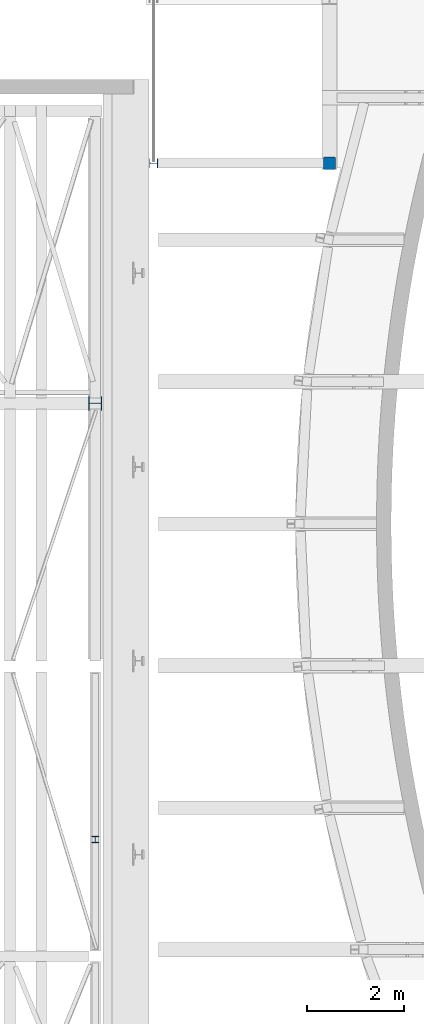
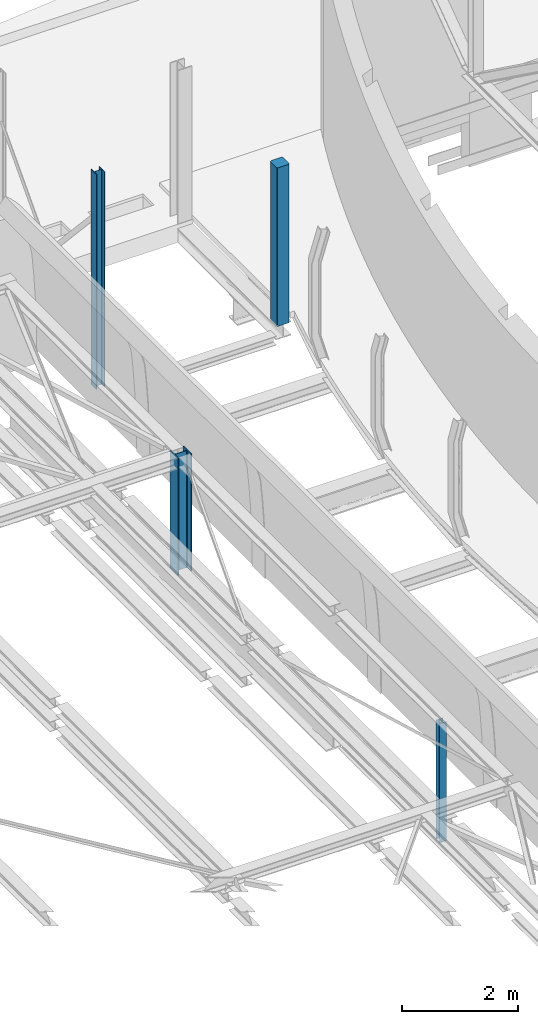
# One storey, part 2 of 38: 4 columns.
"""IFC2X3 building model written with IfcOpenShell, lengths in millimetres."""

from ifc_helpers import new_model, entity, si_unit, converted_unit, derived_unit, direction, frame, frame_2d, origin, place, context, subcontext, project, spatial, polyline, circle_curve, parameter, trimmed, segment, composite_curve, i_section, outline, extrude, source, transform, mapped, material, material_list, type_object, type_shapes, element, save


model = new_model("IFC2X3")

# Units and contexts
model_context = context("Model", 3, precision=0.01, world=origin(), true_north=direction((6.12303176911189e-17, 1.0)))
body_context = subcontext(model_context, "Body", "Model", "MODEL_VIEW")
ifc_project = project(units=[si_unit("LENGTHUNIT", "METRE", prefix="MILLI"), si_unit("AREAUNIT", "SQUARE_METRE", prefix="MILLI"), si_unit("VOLUMEUNIT", "CUBIC_METRE"), converted_unit("PLANEANGLEUNIT", "DEGREE", entity("IfcRatioMeasure", 0.0174532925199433), si_unit("PLANEANGLEUNIT", "RADIAN"), dimensions=[0, 0, 0, 0, 0, 0, 0]), si_unit("MASSUNIT", "GRAM", prefix="KILO"), derived_unit("MASSDENSITYUNIT", [(si_unit("MASSUNIT", "GRAM", prefix="KILO"), 1), (si_unit("LENGTHUNIT", "METRE"), -3)]), derived_unit("MOMENTOFINERTIAUNIT", [(si_unit("LENGTHUNIT", "METRE"), 4)]), si_unit("TIMEUNIT", "SECOND"), si_unit("FREQUENCYUNIT", "HERTZ"), si_unit("THERMODYNAMICTEMPERATUREUNIT", "DEGREE_CELSIUS"), derived_unit("THERMALTRANSMITTANCEUNIT", [(si_unit("MASSUNIT", "GRAM", prefix="KILO"), 1), (si_unit("THERMODYNAMICTEMPERATUREUNIT", "KELVIN"), -1), (si_unit("TIMEUNIT", "SECOND"), -3)]), derived_unit("VOLUMETRICFLOWRATEUNIT", [(si_unit("LENGTHUNIT", "METRE"), 3), (si_unit("TIMEUNIT", "SECOND"), -1)]), si_unit("ELECTRICCURRENTUNIT", "AMPERE"), si_unit("ELECTRICVOLTAGEUNIT", "VOLT"), si_unit("POWERUNIT", "WATT"), si_unit("FORCEUNIT", "NEWTON", prefix="KILO"), si_unit("ILLUMINANCEUNIT", "LUX"), si_unit("LUMINOUSFLUXUNIT", "LUMEN"), si_unit("LUMINOUSINTENSITYUNIT", "CANDELA"), derived_unit("USERDEFINED", [(si_unit("MASSUNIT", "GRAM", prefix="KILO"), -1), (si_unit("LENGTHUNIT", "METRE"), -2), (si_unit("TIMEUNIT", "SECOND"), 3), (si_unit("LUMINOUSFLUXUNIT", "LUMEN"), 1)]), derived_unit("LINEARVELOCITYUNIT", [(si_unit("LENGTHUNIT", "METRE"), 1), (si_unit("TIMEUNIT", "SECOND"), -1)]), si_unit("PRESSUREUNIT", "PASCAL"), derived_unit("USERDEFINED", [(si_unit("LENGTHUNIT", "METRE"), -2), (si_unit("MASSUNIT", "GRAM", prefix="KILO"), 1), (si_unit("TIMEUNIT", "SECOND"), -2)]), derived_unit("LINEARFORCEUNIT", [(si_unit("MASSUNIT", "GRAM", prefix="KILO"), 1), (si_unit("LENGTHUNIT", "METRE"), 1), (si_unit("TIMEUNIT", "SECOND"), -2), (si_unit("LENGTHUNIT", "METRE"), -1)]), derived_unit("PLANARFORCEUNIT", [(si_unit("MASSUNIT", "GRAM", prefix="KILO"), 1), (si_unit("LENGTHUNIT", "METRE"), 1), (si_unit("TIMEUNIT", "SECOND"), -2), (si_unit("LENGTHUNIT", "METRE"), -2)])], contexts=[model_context])

# Site, building, storey
site_placement = place(None, origin())
site = spatial("IfcSite", under=ifc_project, at=site_placement, Name="Theater aan de Parade", CompositionType="ELEMENT")
building_placement = place(site_placement, origin())
building = spatial("IfcBuilding", under=site, at=building_placement, Name="Theater aan de Parade", CompositionType="ELEMENT")
storey_placement = place(building_placement, frame((0.0, 0.0, 12480.0)))
storey = spatial("IfcBuildingStorey", under=building, at=storey_placement, Name="03 derde verdieping", CompositionType="ELEMENT", Elevation=12480.0)

# Columns
ifc_material_1 = material(Name="00_PBT_MAT_staal_S355")
column_type_1 = type_object("IfcColumnType", Name="28_PBT_SC_staal_H-profiel:S355_HE280B", PredefinedType="COLUMN", material=ifc_material_1)
shared_shape_1 = source(origin(), body_context, "Body", "SweptSolid", [
    extrude(i_section(OverallWidth=280.000000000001, OverallDepth=279.999999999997, WebThickness=10.5000000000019, FlangeThickness=18.0000000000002, FilletRadius=23.9999999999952, at=frame_2d((6.49436060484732e-12, -4.32009983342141e-12), x_axis=(1.0, 0.0))), frame((36153.8581300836, 34918.2922984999, 11950.0), z_axis=(0.0, 0.0, 1.0), x_axis=(0.0, -1.0, 0.0)), (0.0, 0.0, 1.0), 2460.00000000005),
])
type_shapes(column_type_1, [shared_shape_1])
column_1_placement = place(storey_placement, frame((0.0, 0.0, -12480.0)))
element("IfcColumn", 1, at=column_1_placement, inside=storey, type_object=column_type_1, material=ifc_material_1, Name="28_PBT_SC_staal_H-profiel:S355_HE280B", ObjectType="28_PBT_SC_staal_H-profiel:S355_HE280B", context=body_context, shape_type="MappedRepresentation", body=[
    mapped(shared_shape_1, transform((0.0, 0.0, 0.0), scale=1.0)),
])
column_type_2 = type_object("IfcColumnType", Name="28_PBT_SC_staal_H-profiel:S355_HE140A", PredefinedType="COLUMN", material=ifc_material_1)
shared_shape_2 = source(origin(), body_context, "Body", "SweptSolid", [
    extrude(i_section(OverallWidth=139.999999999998, OverallDepth=132.999999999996, WebThickness=5.50000000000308, FlangeThickness=8.49999999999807, FilletRadius=12.0000000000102, at=frame_2d((-2.1600499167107e-12, 6.49436060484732e-12), x_axis=(0.0, 1.0))), frame((36153.8581300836, 25963.2922984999, 11700.0), z_axis=(0.0, 0.0, 1.0), x_axis=(0.0, -1.0, 0.0)), (0.0, 0.0, 1.0), 2500.0),
])
type_shapes(column_type_2, [shared_shape_2])
column_2_placement = place(storey_placement, frame((0.0, 0.0, -12480.0)))
element("IfcColumn", 2, at=column_2_placement, inside=storey, type_object=column_type_2, material=ifc_material_1, Name="28_PBT_SC_staal_H-profiel:S355_HE140A", ObjectType="28_PBT_SC_staal_H-profiel:S355_HE140A", context=body_context, shape_type="MappedRepresentation", body=[
    mapped(shared_shape_2, transform((0.0, 0.0, 0.0), scale=1.0)),
])
ifc_material_2 = material(Name="00_PBT_MAT_beton t.p.g._C40/50")
ifc_material_list_1 = material_list([ifc_material_2, ifc_material_1])
ifc_material_list_2 = material_list([ifc_material_2, ifc_material_1])
column_type_3 = type_object("IfcColumnType", Name="28_PBT_SC_staal_koker:S355_K250x250x20_GB_C40/50", PredefinedType="COLUMN", material=ifc_material_list_2)
shared_shape_3 = source(origin(), body_context, "Body", "SweptSolid", [
    extrude(outline(composite_curve([segment(polyline([(-85.0, -105.0), (85.0, -105.0)]), True, "CONTINUOUS"), segment(trimmed(circle_curve(frame_2d((85.0, -85.0), x_axis=(-1.0, 0.0)), 20.0), [parameter(90.0000000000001)], [parameter(180.0)], True, "PARAMETER"), True, "CONTINUOUS"), segment(polyline([(105.0, -85.0), (105.0, 85.0)]), True, "CONTINUOUS"), segment(trimmed(circle_curve(frame_2d((85.0, 85.0), x_axis=(-1.0, 0.0)), 20.0), [parameter(180.0)], [parameter(269.999999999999)], True, "PARAMETER"), True, "CONTINUOUS"), segment(polyline([(85.0, 105.0), (-85.0, 105.0)]), True, "CONTINUOUS"), segment(trimmed(circle_curve(frame_2d((-85.0, 85.0), x_axis=(-1.0, 0.0)), 20.0), [parameter(270.0)], [parameter(1.01777749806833e-13)], True, "PARAMETER"), True, "CONTINUOUS"), segment(polyline([(-105.0, 85.0), (-105.0, -85.0)]), True, "CONTINUOUS"), segment(trimmed(circle_curve(frame_2d((-85.0, -85.0), x_axis=(-1.0, 0.0)), 20.0), [parameter(0.0)], [parameter(90.0000000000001)], True, "PARAMETER"), True, "CONTINUOUS")], self_intersect=False)), frame((40963.8581275, 39850.0, 12490.0)), (0.0, 0.0, 1.0), 3328.0),
    extrude(outline(composite_curve([segment(trimmed(circle_curve(frame_2d((-100.0, -100.0), x_axis=(1.0, 0.0)), 25.0), [parameter(180.0)], [parameter(270.0)], True, "PARAMETER"), True, "CONTINUOUS"), segment(polyline([(-100.0, -125.0), (100.0, -125.0)]), True, "CONTINUOUS"), segment(trimmed(circle_curve(frame_2d((100.0, -100.0), x_axis=(1.0, 0.0)), 25.0), [parameter(270.0)], [parameter(0.0)], True, "PARAMETER"), True, "CONTINUOUS"), segment(polyline([(125.0, -100.0), (125.0, 100.0)]), True, "CONTINUOUS"), segment(trimmed(circle_curve(frame_2d((100.0, 100.0), x_axis=(1.0, 0.0)), 25.0), [parameter(3.56222124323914e-13)], [parameter(90.0000000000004)], True, "PARAMETER"), True, "CONTINUOUS"), segment(polyline([(100.0, 125.0), (-100.0, 125.0)]), True, "CONTINUOUS"), segment(trimmed(circle_curve(frame_2d((-100.0, 100.0), x_axis=(1.0, 0.0)), 25.0), [parameter(90.0)], [parameter(180.0)], True, "PARAMETER"), True, "CONTINUOUS"), segment(polyline([(-125.0, 100.0), (-125.0, -100.0)]), True, "CONTINUOUS")], self_intersect=False), holes=[composite_curve([segment(trimmed(circle_curve(frame_2d((85.0, 85.0), x_axis=(1.0, 0.0)), 20.0), [parameter(0.0)], [parameter(90.0000000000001)], True, "PARAMETER"), False, "CONTINUOUS"), segment(polyline([(105.0, 85.0), (105.0, -85.0)]), True, "CONTINUOUS"), segment(trimmed(circle_curve(frame_2d((85.0, -85.0), x_axis=(1.0, 0.0)), 20.0), [parameter(270.0)], [parameter(360.0)], True, "PARAMETER"), False, "CONTINUOUS"), segment(polyline([(85.0, -105.0), (-85.0, -105.0)]), True, "CONTINUOUS"), segment(trimmed(circle_curve(frame_2d((-85.0, -85.0), x_axis=(1.0, 0.0)), 20.0), [parameter(180.0)], [parameter(270.0)], True, "PARAMETER"), False, "CONTINUOUS"), segment(polyline([(-105.0, -85.0), (-105.0, 85.0)]), True, "CONTINUOUS"), segment(trimmed(circle_curve(frame_2d((-85.0, 85.0), x_axis=(1.0, 0.0)), 20.0), [parameter(89.9999999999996)], [parameter(180.0)], True, "PARAMETER"), False, "CONTINUOUS"), segment(polyline([(-85.0, 105.0), (85.0, 105.0)]), True, "CONTINUOUS")], self_intersect=False)]), frame((40963.8581275, 39850.0, 12490.0)), (0.0, 0.0, 1.0), 3328.0),
])
type_shapes(column_type_3, [shared_shape_3])
column_3_placement = place(storey_placement, frame((0.0, 0.0, -12480.0)))
element("IfcColumn", 3, at=column_3_placement, inside=storey, type_object=column_type_3, material=ifc_material_list_1, Name="28_PBT_SC_staal_koker:S355_K250x250x20_GB_C40/50", ObjectType="28_PBT_SC_staal_koker:S355_K250x250x20_GB_C40/50", context=body_context, shape_type="MappedRepresentation", body=[
    mapped(shared_shape_3, transform((0.0, 0.0, 0.0), scale=1.0)),
])
column_type_4 = type_object("IfcColumnType", Name="28_PBT_SC_staal_H-profiel:S355_HE180A", PredefinedType="COLUMN", material=ifc_material_1)
shared_shape_4 = source(origin(), body_context, "Body", "SweptSolid", [
    extrude(i_section(OverallWidth=180.000000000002, OverallDepth=171.000000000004, WebThickness=5.99999999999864, FlangeThickness=9.49999999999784, FilletRadius=14.9999999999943, at=frame_2d((4.33431068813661e-12, 6.49436060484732e-12), x_axis=(1.0, 0.0))), frame((37353.858130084, 39850.0, 12400.0), z_axis=(0.0, 0.0, 1.0), x_axis=(0.0, -1.0, 0.0)), (0.0, 0.0, 1.0), 4518.0),
])
type_shapes(column_type_4, [shared_shape_4])
column_4_placement = place(storey_placement, frame((0.0, 0.0, -12480.0)))
element("IfcColumn", 4, at=column_4_placement, inside=storey, type_object=column_type_4, material=ifc_material_1, Name="28_PBT_SC_staal_H-profiel:S355_HE180A", ObjectType="28_PBT_SC_staal_H-profiel:S355_HE180A", context=body_context, shape_type="MappedRepresentation", body=[
    mapped(shared_shape_4, transform((0.0, 0.0, 0.0), scale=1.0)),
])

save(model, "model.ifc")
